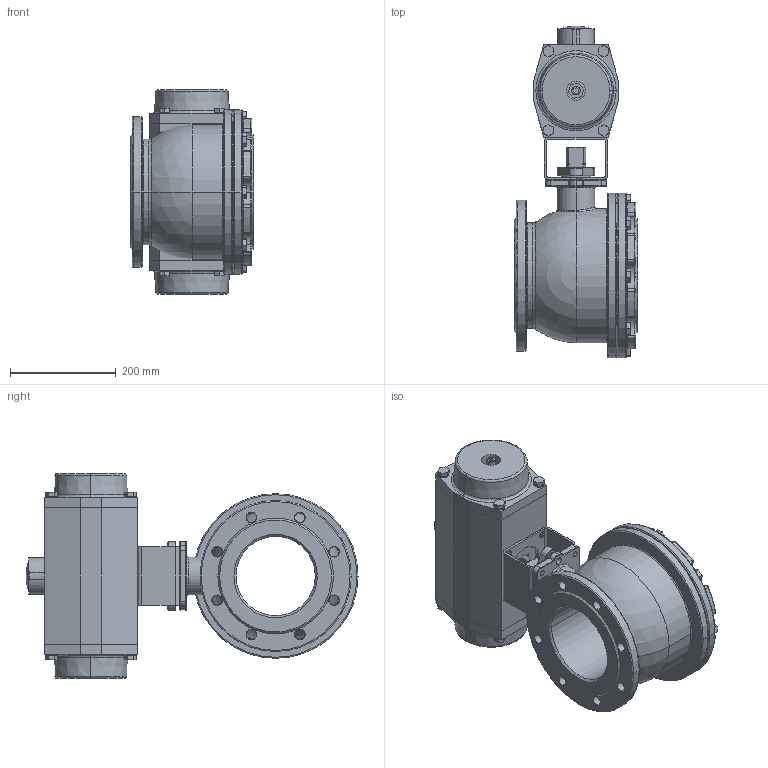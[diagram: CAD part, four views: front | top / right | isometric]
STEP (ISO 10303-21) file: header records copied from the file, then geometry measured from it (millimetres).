
FILE_DESCRIPTION (( 'STEP AP214' ), '1' );
FILE_NAME ('S15F150-5.5D.STEP', '2012-04-24T09:04:01', ( 'Jan' ), ( '' ), 'SwSTEP 2.0', 'SolidWorks 2011', '' );
FILE_SCHEMA (( 'AUTOMOTIVE_DESIGN' ));
Length unit declared in the file: millimetre
Products named in the file (4): YB12080F12F12-4; S15F KK DN150 PN16 bare stem; S15F150-5.5D; AP5.5_Default<As Machined>
Assembly tree (3 placements, depth 2):
  S15F150-5.5D
    YB12080F12F12-4
    AP5.5_Default<As Machined>
    S15F KK DN150 PN16 bare stem
Bounding box: 234 x 628.9 x 388 mm (x, y, z)
Volume: 17651214.5 mm3; surface area: 987286.5 mm2
Topology: 14 solids, 14 shells, 800 faces, 1914 edges, 1151 vertices
Faces by surface type: plane 307, cylinder 253, torus 141, cone 94, sphere 4, bspline 1
Entity records: 25351 total; most frequent: DIRECTION 4343, CARTESIAN_POINT 4127, ORIENTED_EDGE 3716, EDGE_CURVE 1858, AXIS2_PLACEMENT_3D 1683, VERTEX_POINT 1149, LINE 977, VECTOR 977
